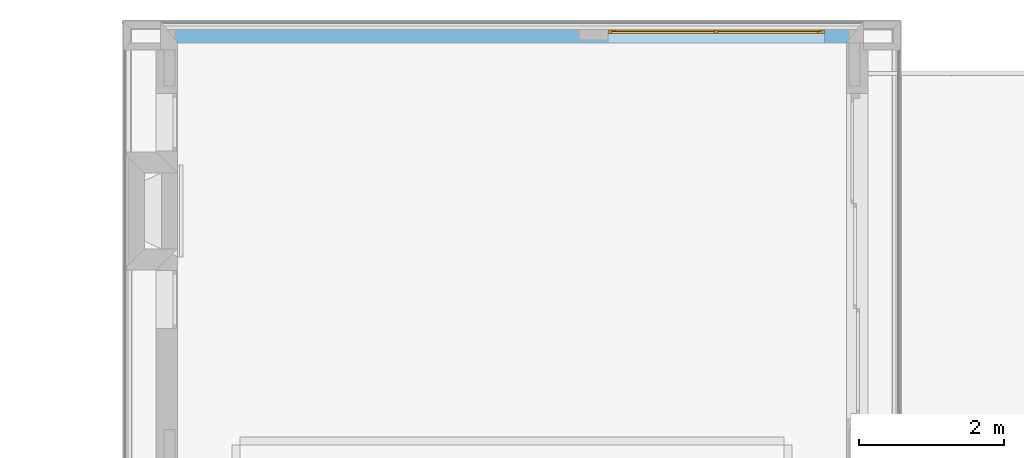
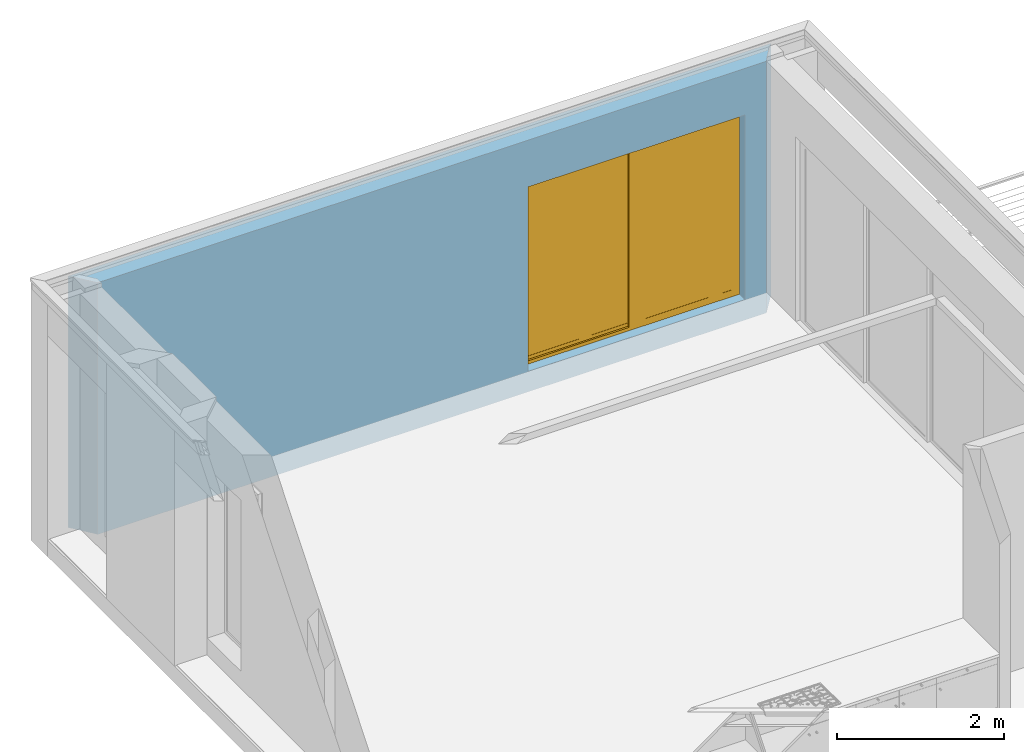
# One storey, part 13 of 26: 1 window, 1 opening, plus 1 element that does not belong to this part.
"""IFC2X3 building model written with IfcOpenShell, lengths in millimetres."""

from ifc_helpers import new_model, entity, si_unit, converted_unit, money_unit, direction, frame, origin_with_axes, origin_2d_with_axis, place, context, subcontext, project, spatial, polyline, rectangle, outline, extrude, open_shell, faceted_brep, surface_model, material, material_list, layer, layer_set, layer_usage, type_object, element, fill, save


model = new_model("IFC2X3")

# Units and contexts
model_context = context("Model", 3, precision=1e-05, world=origin_with_axes(), true_north=direction((0.0, 1.0)))
body_context = subcontext(model_context, "Body", "Model", "MODEL_VIEW")
ifc_project = project(units=[si_unit("LENGTHUNIT", "METRE", prefix="MILLI"), si_unit("AREAUNIT", "SQUARE_METRE"), si_unit("VOLUMEUNIT", "CUBIC_METRE"), converted_unit("PLANEANGLEUNIT", "DEGREE", entity("IfcPlaneAngleMeasure", 0.0174532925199), si_unit("PLANEANGLEUNIT", "RADIAN"), dimensions=[0, 0, 0, 0, 0, 0, 0]), si_unit("SOLIDANGLEUNIT", "STERADIAN"), money_unit("USD"), converted_unit("TIMEUNIT", "Year", entity("IfcTimeMeasure", 31556926.0), si_unit("TIMEUNIT", "SECOND"), dimensions=[0, 0, 0, 0, 0, 0, 0]), si_unit("MASSUNIT", "GRAM"), si_unit("THERMODYNAMICTEMPERATUREUNIT", "DEGREE_CELSIUS"), si_unit("LUMINOUSINTENSITYUNIT", "LUMEN")], contexts=[model_context])

# Site, building, storey
site_placement = place(None, origin_with_axes())
site = spatial("IfcSite", under=ifc_project, at=site_placement, Name="Grove Residential", CompositionType="ELEMENT")
building_placement = place(site_placement, origin_with_axes())
building = spatial("IfcBuilding", under=site, at=building_placement, Name="Building", CompositionType="ELEMENT")
storey_placement = place(building_placement, origin_with_axes())
storey = spatial("IfcBuildingStorey", under=building, at=storey_placement, Name="Ground Floor", CompositionType="ELEMENT", Elevation=0.0)

# Wall, opening, window
ifc_material_1 = material(Name="External Render")
ifc_layer_1 = layer(ifc_material_1, 20.0, ventilated="UNKNOWN")
ifc_material_2 = material(Name="Cement Board")
ifc_layer_2 = layer(ifc_material_2, 10.0, ventilated="UNKNOWN")
ifc_material_3 = material(Name="Air Space")
ifc_layer_3 = layer(ifc_material_3, 35.0, ventilated="UNKNOWN")
ifc_material_4 = material(Name="Insulation - Plastic Soft")
ifc_layer_4 = layer(ifc_material_4, 50.0, ventilated="UNKNOWN")
ifc_material_5 = material(Name="Concrete Block")
ifc_layer_5 = layer(ifc_material_5, 150.0, ventilated="UNKNOWN")
ifc_material_6 = material(Name="Air Space - Fixing Zone")
ifc_layer_6 = layer(ifc_material_6, 10.0, ventilated="UNKNOWN")
ifc_material_7 = material(Name="Gypsum Plasterboard")
ifc_layer_7 = layer(ifc_material_7, 12.5, ventilated="UNKNOWN")
ifc_layer_8 = layer(ifc_material_7, 12.5, ventilated="UNKNOWN")
ifc_layer_set = layer_set([ifc_layer_1, ifc_layer_2, ifc_layer_3, ifc_layer_4, ifc_layer_5, ifc_layer_6, ifc_layer_7, ifc_layer_8], Name="EWF - 001")
ifc_layer_usage = layer_usage(ifc_layer_set, "AXIS2", "NEGATIVE", 115.0)
wall_type = type_object("IfcWallType", Name="EWF - 001 300", PredefinedType="NOTDEFINED")
wall_placement = place(storey_placement, frame((564.999983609, 18435.0, -300.0), z_axis=(0.0, 0.0, 1.0), x_axis=(1.0, 0.0, 0.0)))
wall = element("IfcWallStandardCase", 1, at=wall_placement, inside=storey, type_object=wall_type, material=ifc_layer_usage, Name="SW - 001", context=body_context, shape_type="SweptSolid", body=[
    extrude(outline(polyline([(185.0, -185.0), (9435.00001639, -185.0), (9670.00001639, 115.0), (-50.0, 115.0), (185.0, -185.0)])), origin_with_axes(), (0.0, 0.0, 1.0), 3680.0),
])
opening_placement = place(wall_placement, frame((7635.00001639, 0.0, 300.0), z_axis=(0.0, 0.0, 1.0), x_axis=(1.0, 0.0, 0.0)))
opening = element("IfcOpeningElement", 2, at=opening_placement, cuts=wall, Name="W.10", context=body_context, shape_type="SweptSolid", body=[
    extrude(rectangle(XDim=3000.0, YDim=2700.0, at=origin_2d_with_axis()), frame((0.0, -5.0, 1350.0), z_axis=(0.0, -1.0, 0.0), x_axis=(1.0, 0.0, 0.0)), (0.0, 0.0, 1.0), 480.0),
    extrude(rectangle(XDim=3000.0, YDim=2700.0, at=origin_2d_with_axis()), frame((0.0, -5.0, 1350.0), z_axis=(0.0, 1.0, 0.0), x_axis=(1.0, 0.0, 0.0)), (0.0, 0.0, 1.0), 420.0),
])
ifc_material_8 = material(Name="Background")
ifc_material_9 = material(Name="Air Space")
ifc_material_10 = material(Name="Rigid Insulation")
ifc_material_11 = material(Name="Batt Insulation")
ifc_material_list = material_list([ifc_material_8, ifc_material_9, ifc_material_8, ifc_material_8, ifc_material_8, ifc_material_10, ifc_material_8, ifc_material_8, ifc_material_8, ifc_material_8, ifc_material_9, ifc_material_8, ifc_material_11])
window_style = type_object("IfcWindowStyle", Name="Window 21", ConstructionType="NOTDEFINED", OperationType="DOUBLE_PANEL_VERTICAL", ParameterTakesPrecedence=False, Sizeable=False)
window_placement = place(opening_placement, frame((1500.0, 0.0, 0.0), z_axis=(0.0, 0.0, 1.0), x_axis=(-1.0, 0.0, 0.0)))
window = element("IfcWindow", 3, at=window_placement, inside=storey, type_object=window_style, material=ifc_material_list, Name="W.10", OverallHeight=2700.0, OverallWidth=3000.0, context=body_context, shape_type="SurfaceModel", body=[
    faceted_brep([(2950.0, 5.0, 2650.0), (3000.0, 5.0, 2650.0), (3000.0, 55.0, 2650.0), (2950.0, 55.0, 2650.0), (2950.0, 5.0, 50.0), (3000.0, 5.0, 50.0), (3000.0, 55.0, 50.0), (2950.0, 55.0, 50.0)], [[[0, 1, 2, 3]], [[0, 4, 5, 1]], [[1, 5, 6, 2]], [[3, 2, 6, 7]], [[4, 0, 3, 7]], [[5, 4, 7, 6]]]),
    faceted_brep([(50.0, 5.0, 50.0), (0.0, 5.0, 50.0), (0.0, 55.0, 50.0), (50.0, 55.0, 50.0), (50.0, 5.0, 2650.0), (0.0, 5.0, 2650.0), (0.0, 55.0, 2650.0), (50.0, 55.0, 2650.0)], [[[0, 1, 2, 3]], [[0, 4, 5, 1]], [[1, 5, 6, 2]], [[3, 2, 6, 7]], [[4, 0, 3, 7]], [[5, 4, 7, 6]]]),
    faceted_brep([(2950.0, 5.0, 50.0), (3000.0, 5.0, 50.0), (3000.0, 55.0, 50.0), (2950.0, 55.0, 50.0), (50.0, 5.0, 50.0), (0.0, 5.0, 50.0), (0.0, 5.0, 0.0), (3000.0, 5.0, 0.0), (3000.0, 55.0, 0.0), (0.0, 55.0, 0.0), (0.0, 55.0, 50.0), (50.0, 55.0, 50.0)], [[[0, 1, 2, 3]], [[0, 4, 5, 6, 7, 1]], [[1, 7, 8, 2]], [[3, 2, 8, 9, 10, 11]], [[4, 0, 3, 11]], [[5, 4, 11, 10]], [[6, 5, 10, 9]], [[7, 6, 9, 8]]]),
    faceted_brep([(50.0, 5.0, 2650.0), (0.0, 5.0, 2650.0), (0.0, 55.0, 2650.0), (50.0, 55.0, 2650.0), (2950.0, 5.0, 2650.0), (3000.0, 5.0, 2650.0), (3000.0, 5.0, 2700.0), (0.0, 5.0, 2700.0), (0.0, 55.0, 2700.0), (3000.0, 55.0, 2700.0), (3000.0, 55.0, 2650.0), (2950.0, 55.0, 2650.0)], [[[0, 1, 2, 3]], [[0, 4, 5, 6, 7, 1]], [[1, 7, 8, 2]], [[3, 2, 8, 9, 10, 11]], [[4, 0, 3, 11]], [[5, 4, 11, 10]], [[6, 5, 10, 9]], [[7, 6, 9, 8]]]),
    faceted_brep([(1475.0, 30.0, 2600.0), (1525.0, 30.0, 2600.0), (1525.0, 55.0, 2600.0), (1475.0, 55.0, 2600.0), (1475.0, 30.0, 100.0), (1525.0, 30.0, 100.0), (1525.0, 55.0, 100.0), (1475.0, 55.0, 100.0)], [[[0, 1, 2, 3]], [[0, 4, 5, 1]], [[1, 5, 6, 2]], [[3, 2, 6, 7]], [[4, 0, 3, 7]], [[5, 4, 7, 6]]]),
    faceted_brep([(100.0, 30.0, 100.0), (50.0, 30.0, 100.0), (50.0, 55.0, 100.0), (100.0, 55.0, 100.0), (100.0, 30.0, 2600.0), (50.0, 30.0, 2600.0), (50.0, 55.0, 2600.0), (100.0, 55.0, 2600.0)], [[[0, 1, 2, 3]], [[0, 4, 5, 1]], [[1, 5, 6, 2]], [[3, 2, 6, 7]], [[4, 0, 3, 7]], [[5, 4, 7, 6]]]),
    faceted_brep([(50.0, 30.0, 50.0), (50.0, 30.0, 100.0), (50.0, 55.0, 100.0), (50.0, 55.0, 50.0), (1525.0, 30.0, 50.0), (1525.0, 30.0, 100.0), (1475.0, 30.0, 100.0), (100.0, 30.0, 100.0), (100.0, 55.0, 100.0), (1475.0, 55.0, 100.0), (1525.0, 55.0, 100.0), (1525.0, 55.0, 50.0)], [[[0, 1, 2, 3]], [[0, 4, 5, 6, 7, 1]], [[1, 7, 8, 2]], [[3, 2, 8, 9, 10, 11]], [[4, 0, 3, 11]], [[5, 4, 11, 10]], [[6, 5, 10, 9]], [[7, 6, 9, 8]]]),
    faceted_brep([(1525.0, 30.0, 2650.0), (1525.0, 30.0, 2600.0), (1525.0, 55.0, 2600.0), (1525.0, 55.0, 2650.0), (50.0, 30.0, 2650.0), (50.0, 30.0, 2600.0), (100.0, 30.0, 2600.0), (1475.0, 30.0, 2600.0), (1475.0, 55.0, 2600.0), (100.0, 55.0, 2600.0), (50.0, 55.0, 2600.0), (50.0, 55.0, 2650.0)], [[[0, 1, 2, 3]], [[0, 4, 5, 6, 7, 1]], [[1, 7, 8, 2]], [[3, 2, 8, 9, 10, 11]], [[4, 0, 3, 11]], [[5, 4, 11, 10]], [[6, 5, 10, 9]], [[7, 6, 9, 8]]]),
    surface_model("IfcShellBasedSurfaceModel", [(1475.0, 32.5, 100.0), (1475.0, 32.5, 2600.0), (100.0, 32.5, 2600.0), (100.0, 32.5, 100.0)], [open_shell([[[0, 1, 2, 3]]])]),
    surface_model("IfcShellBasedSurfaceModel", [(1475.0, 52.5, 100.0), (100.0, 52.5, 100.0), (100.0, 52.5, 2600.0), (1475.0, 52.5, 2600.0)], [open_shell([[[0, 1, 2, 3]]])]),
    faceted_brep([(2900.0, 5.0, 2600.0), (2950.0, 5.0, 2600.0), (2950.0, 30.0, 2600.0), (2900.0, 30.0, 2600.0), (2900.0, 5.0, 100.0), (2950.0, 5.0, 100.0), (2950.0, 30.0, 100.0), (2900.0, 30.0, 100.0)], [[[0, 1, 2, 3]], [[0, 4, 5, 1]], [[1, 5, 6, 2]], [[3, 2, 6, 7]], [[4, 0, 3, 7]], [[5, 4, 7, 6]]]),
    faceted_brep([(1525.0, 5.0, 100.0), (1475.0, 5.0, 100.0), (1475.0, 30.0, 100.0), (1525.0, 30.0, 100.0), (1525.0, 5.0, 2600.0), (1475.0, 5.0, 2600.0), (1475.0, 30.0, 2600.0), (1525.0, 30.0, 2600.0)], [[[0, 1, 2, 3]], [[0, 4, 5, 1]], [[1, 5, 6, 2]], [[3, 2, 6, 7]], [[4, 0, 3, 7]], [[5, 4, 7, 6]]]),
    faceted_brep([(1475.0, 5.0, 50.0), (1475.0, 5.0, 100.0), (1475.0, 30.0, 100.0), (1475.0, 30.0, 50.0), (2950.0, 5.0, 50.0), (2950.0, 5.0, 100.0), (2900.0, 5.0, 100.0), (1525.0, 5.0, 100.0), (1525.0, 30.0, 100.0), (2900.0, 30.0, 100.0), (2950.0, 30.0, 100.0), (2950.0, 30.0, 50.0)], [[[0, 1, 2, 3]], [[0, 4, 5, 6, 7, 1]], [[1, 7, 8, 2]], [[3, 2, 8, 9, 10, 11]], [[4, 0, 3, 11]], [[5, 4, 11, 10]], [[6, 5, 10, 9]], [[7, 6, 9, 8]]]),
    faceted_brep([(2950.0, 5.0, 2650.0), (2950.0, 5.0, 2600.0), (2950.0, 30.0, 2600.0), (2950.0, 30.0, 2650.0), (1475.0, 5.0, 2650.0), (1475.0, 5.0, 2600.0), (1525.0, 5.0, 2600.0), (2900.0, 5.0, 2600.0), (2900.0, 30.0, 2600.0), (1525.0, 30.0, 2600.0), (1475.0, 30.0, 2600.0), (1475.0, 30.0, 2650.0)], [[[0, 1, 2, 3]], [[0, 4, 5, 6, 7, 1]], [[1, 7, 8, 2]], [[3, 2, 8, 9, 10, 11]], [[4, 0, 3, 11]], [[5, 4, 11, 10]], [[6, 5, 10, 9]], [[7, 6, 9, 8]]]),
    surface_model("IfcShellBasedSurfaceModel", [(2900.0, 7.5, 100.0), (2900.0, 7.5, 2600.0), (1525.0, 7.5, 2600.0), (1525.0, 7.5, 100.0)], [open_shell([[[0, 1, 2, 3]]])]),
    surface_model("IfcShellBasedSurfaceModel", [(2900.0, 27.5, 100.0), (1525.0, 27.5, 100.0), (1525.0, 27.5, 2600.0), (2900.0, 27.5, 2600.0)], [open_shell([[[0, 1, 2, 3]]])]),
])
fill(opening, window)

save(model, "model.ifc")
